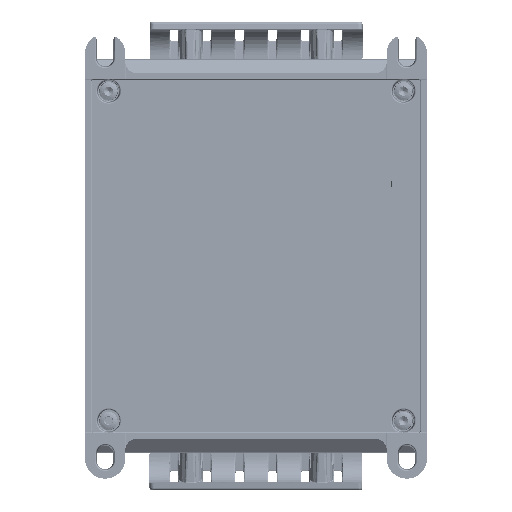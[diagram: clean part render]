
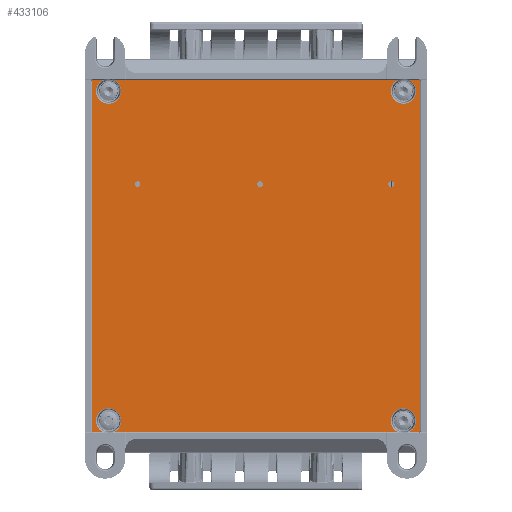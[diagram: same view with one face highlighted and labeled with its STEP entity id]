
A CAD part, front view. The second image highlights one B-rep face of the part: STEP entity #433106.
In plain terms, the highlighted planar face has unit normal (0, -1, 0).
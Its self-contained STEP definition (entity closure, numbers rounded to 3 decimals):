
#7895=FACE_BOUND('',#163698,.T.);
#7896=FACE_BOUND('',#163699,.T.);
#7897=FACE_BOUND('',#163700,.T.);
#43543=LINE('',#776575,#81649);
#43545=LINE('',#776587,#81651);
#43547=LINE('',#776599,#81653);
#44031=LINE('',#781580,#82137);
#44032=LINE('',#781583,#82138);
#44033=LINE('',#781685,#82139);
#44035=LINE('',#781697,#82141);
#44036=LINE('',#781704,#82142);
#81649=VECTOR('',#550649,10.);
#81651=VECTOR('',#550663,10.);
#81653=VECTOR('',#550677,10.);
#82137=VECTOR('',#552983,10.);
#82138=VECTOR('',#552986,10.);
#82139=VECTOR('',#552995,10.);
#82141=VECTOR('',#553009,10.);
#82142=VECTOR('',#553020,10.);
#99405=PLANE('',#464378);
#138253=FACE_OUTER_BOUND('',#163697,.T.);
#163697=EDGE_LOOP('',(#379866,#379867,#379868,#379869,#379870,#379871,#379872,
#379873,#379874,#379875,#379876,#379877,#379878,#379879,#379880,#379881,
#379882,#379883));
#163698=EDGE_LOOP('',(#379884));
#163699=EDGE_LOOP('',(#379885));
#163700=EDGE_LOOP('',(#379886));
#177975=CIRCLE('',#463436,0.66);
#177979=CIRCLE('',#463442,0.66);
#177982=CIRCLE('',#463447,5.386);
#177986=CIRCLE('',#463452,5.386);
#177990=CIRCLE('',#463456,5.386);
#178408=CIRCLE('',#464364,0.66);
#178412=CIRCLE('',#464370,0.66);
#178413=CIRCLE('',#464376,5.386);
#178415=CIRCLE('',#464379,5.386);
#178416=CIRCLE('',#464380,5.386);
#178417=CIRCLE('',#464381,1.25);
#178418=CIRCLE('',#464382,1.25);
#178419=CIRCLE('',#464383,1.25);
#217758=VERTEX_POINT('',#776530);
#217761=VERTEX_POINT('',#776551);
#217762=VERTEX_POINT('',#776571);
#217764=VERTEX_POINT('',#776577);
#217766=VERTEX_POINT('',#776583);
#217768=VERTEX_POINT('',#776589);
#217770=VERTEX_POINT('',#776595);
#217772=VERTEX_POINT('',#776685);
#217777=VERTEX_POINT('',#776735);
#218430=VERTEX_POINT('',#781561);
#218431=VERTEX_POINT('',#781563);
#218432=VERTEX_POINT('',#781582);
#218433=VERTEX_POINT('',#781660);
#218435=VERTEX_POINT('',#781683);
#218436=VERTEX_POINT('',#781687);
#218438=VERTEX_POINT('',#781693);
#218440=VERTEX_POINT('',#781699);
#218441=VERTEX_POINT('',#781714);
#218442=VERTEX_POINT('',#781717);
#218443=VERTEX_POINT('',#781719);
#218444=VERTEX_POINT('',#781721);
#272437=EDGE_CURVE('',#217758,#217762,#43543,.T.);
#272440=EDGE_CURVE('',#217762,#217764,#177975,.T.);
#272443=EDGE_CURVE('',#217764,#217766,#43545,.T.);
#272446=EDGE_CURVE('',#217766,#217768,#177979,.T.);
#272449=EDGE_CURVE('',#217768,#217770,#43547,.T.);
#272454=EDGE_CURVE('',#217770,#217772,#177982,.T.);
#272458=EDGE_CURVE('',#217761,#217777,#177986,.T.);
#272462=EDGE_CURVE('',#217777,#217758,#177990,.T.);
#273577=EDGE_CURVE('',#218430,#217761,#44031,.T.);
#273578=EDGE_CURVE('',#217772,#218432,#44032,.T.);
#273584=EDGE_CURVE('',#218433,#218435,#44033,.T.);
#273587=EDGE_CURVE('',#218435,#218436,#178408,.T.);
#273590=EDGE_CURVE('',#218436,#218438,#44035,.T.);
#273593=EDGE_CURVE('',#218438,#218440,#178412,.T.);
#273594=EDGE_CURVE('',#218440,#218431,#44036,.T.);
#273597=EDGE_CURVE('',#218432,#218433,#178413,.T.);
#273599=EDGE_CURVE('',#218441,#218430,#178415,.T.);
#273600=EDGE_CURVE('',#218431,#218441,#178416,.T.);
#273601=EDGE_CURVE('',#218442,#218442,#178417,.T.);
#273602=EDGE_CURVE('',#218443,#218443,#178418,.T.);
#273603=EDGE_CURVE('',#218444,#218444,#178419,.T.);
#379866=ORIENTED_EDGE('',*,*,#273577,.F.);
#379867=ORIENTED_EDGE('',*,*,#273599,.F.);
#379868=ORIENTED_EDGE('',*,*,#273600,.F.);
#379869=ORIENTED_EDGE('',*,*,#273594,.F.);
#379870=ORIENTED_EDGE('',*,*,#273593,.F.);
#379871=ORIENTED_EDGE('',*,*,#273590,.F.);
#379872=ORIENTED_EDGE('',*,*,#273587,.F.);
#379873=ORIENTED_EDGE('',*,*,#273584,.F.);
#379874=ORIENTED_EDGE('',*,*,#273597,.F.);
#379875=ORIENTED_EDGE('',*,*,#273578,.F.);
#379876=ORIENTED_EDGE('',*,*,#272454,.F.);
#379877=ORIENTED_EDGE('',*,*,#272449,.F.);
#379878=ORIENTED_EDGE('',*,*,#272446,.F.);
#379879=ORIENTED_EDGE('',*,*,#272443,.F.);
#379880=ORIENTED_EDGE('',*,*,#272440,.F.);
#379881=ORIENTED_EDGE('',*,*,#272437,.F.);
#379882=ORIENTED_EDGE('',*,*,#272462,.F.);
#379883=ORIENTED_EDGE('',*,*,#272458,.F.);
#379884=ORIENTED_EDGE('',*,*,#273601,.T.);
#379885=ORIENTED_EDGE('',*,*,#273602,.T.);
#379886=ORIENTED_EDGE('',*,*,#273603,.T.);
#433106=ADVANCED_FACE('',(#138253,#7895,#7896,#7897),#99405,.F.);
#463436=AXIS2_PLACEMENT_3D('',#776581,#550656,#550657);
#463442=AXIS2_PLACEMENT_3D('',#776593,#550670,#550671);
#463447=AXIS2_PLACEMENT_3D('',#776728,#550682,#550683);
#463452=AXIS2_PLACEMENT_3D('',#776736,#550692,#550693);
#463456=AXIS2_PLACEMENT_3D('',#776742,#550700,#550701);
#464364=AXIS2_PLACEMENT_3D('',#781691,#553002,#553003);
#464370=AXIS2_PLACEMENT_3D('',#781702,#553016,#553017);
#464376=AXIS2_PLACEMENT_3D('',#781711,#553031,#553032);
#464378=AXIS2_PLACEMENT_3D('',#781713,#553035,#553036);
#464379=AXIS2_PLACEMENT_3D('',#781715,#553037,#553038);
#464380=AXIS2_PLACEMENT_3D('',#781716,#553039,#553040);
#464381=AXIS2_PLACEMENT_3D('',#781718,#553041,#553042);
#464382=AXIS2_PLACEMENT_3D('',#781720,#553043,#553044);
#464383=AXIS2_PLACEMENT_3D('',#781722,#553045,#553046);
#550649=DIRECTION('',(1.,0.,0.));
#550656=DIRECTION('center_axis',(0.,1.,0.));
#550657=DIRECTION('ref_axis',(0.707,0.,0.707));
#550663=DIRECTION('',(0.,0.,-1.));
#550670=DIRECTION('center_axis',(0.,1.,0.));
#550671=DIRECTION('ref_axis',(0.707,0.,-0.707));
#550677=DIRECTION('',(-1.,0.,0.));
#550682=DIRECTION('center_axis',(0.,-1.,0.));
#550683=DIRECTION('ref_axis',(-1.,0.,0.));
#550692=DIRECTION('center_axis',(0.,-1.,0.));
#550693=DIRECTION('ref_axis',(-1.,0.,0.));
#550700=DIRECTION('center_axis',(0.,-1.,0.));
#550701=DIRECTION('ref_axis',(-1.,0.,0.));
#552983=DIRECTION('',(1.,0.,0.));
#552986=DIRECTION('',(-1.,0.,0.));
#552995=DIRECTION('',(-1.,0.,0.));
#553002=DIRECTION('center_axis',(0.,1.,0.));
#553003=DIRECTION('ref_axis',(-0.707,0.,-0.707));
#553009=DIRECTION('',(0.,0.,1.));
#553016=DIRECTION('center_axis',(0.,1.,0.));
#553017=DIRECTION('ref_axis',(-0.707,0.,0.707));
#553020=DIRECTION('',(1.,0.,0.));
#553031=DIRECTION('center_axis',(0.,-1.,0.));
#553032=DIRECTION('ref_axis',(-1.,0.,0.));
#553035=DIRECTION('center_axis',(0.,1.,0.));
#553036=DIRECTION('ref_axis',(0.,0.,1.));
#553037=DIRECTION('center_axis',(0.,-1.,0.));
#553038=DIRECTION('ref_axis',(-1.,0.,0.));
#553039=DIRECTION('center_axis',(0.,-1.,0.));
#553040=DIRECTION('ref_axis',(-1.,0.,0.));
#553041=DIRECTION('center_axis',(0.,1.,0.));
#553042=DIRECTION('ref_axis',(-1.,0.,0.));
#553043=DIRECTION('center_axis',(0.,1.,0.));
#553044=DIRECTION('ref_axis',(-1.,0.,0.));
#553045=DIRECTION('center_axis',(0.,1.,0.));
#553046=DIRECTION('ref_axis',(-1.,0.,0.));
#776530=CARTESIAN_POINT('',(23.47,1.,75.16));
#776551=CARTESIAN_POINT('',(18.43,1.,75.16));
#776571=CARTESIAN_POINT('',(27.45,1.,75.16));
#776575=CARTESIAN_POINT('',(-33.775,1.,75.16));
#776577=CARTESIAN_POINT('',(28.11,1.,74.5));
#776581=CARTESIAN_POINT('Origin',(27.45,1.,74.5));
#776583=CARTESIAN_POINT('',(28.11,1.,-74.5));
#776587=CARTESIAN_POINT('',(28.11,1.,-43.25));
#776589=CARTESIAN_POINT('',(27.45,1.,-75.16));
#776593=CARTESIAN_POINT('Origin',(27.45,1.,-74.5));
#776595=CARTESIAN_POINT('',(23.47,1.,-75.16));
#776599=CARTESIAN_POINT('',(-134.225,1.,-75.16));
#776685=CARTESIAN_POINT('',(18.43,1.,-75.16));
#776728=CARTESIAN_POINT('Origin',(20.95,1.,-70.4));
#776735=CARTESIAN_POINT('',(20.95,1.,65.014));
#776736=CARTESIAN_POINT('Origin',(20.95,1.,70.4));
#776742=CARTESIAN_POINT('Origin',(20.95,1.,70.4));
#781561=CARTESIAN_POINT('',(-102.43,1.,75.16));
#781563=CARTESIAN_POINT('',(-107.47,1.,75.16));
#781580=CARTESIAN_POINT('',(50.225,1.,75.16));
#781582=CARTESIAN_POINT('',(-102.43,1.,-75.16));
#781583=CARTESIAN_POINT('',(-50.225,1.,-75.16));
#781660=CARTESIAN_POINT('',(-107.47,1.,-75.16));
#781683=CARTESIAN_POINT('',(-111.45,1.,-75.16));
#781685=CARTESIAN_POINT('',(-50.225,1.,-75.16));
#781687=CARTESIAN_POINT('',(-112.11,1.,-74.5));
#781691=CARTESIAN_POINT('Origin',(-111.45,1.,-74.5));
#781693=CARTESIAN_POINT('',(-112.11,1.,74.5));
#781697=CARTESIAN_POINT('',(-112.11,1.,43.25));
#781699=CARTESIAN_POINT('',(-111.45,1.,75.16));
#781702=CARTESIAN_POINT('Origin',(-111.45,1.,74.5));
#781704=CARTESIAN_POINT('',(50.225,1.,75.16));
#781711=CARTESIAN_POINT('Origin',(-104.95,1.,-70.4));
#781713=CARTESIAN_POINT('Origin',(0.,1.,0.));
#781714=CARTESIAN_POINT('',(-104.95,1.,65.014));
#781715=CARTESIAN_POINT('Origin',(-104.95,1.,70.4));
#781716=CARTESIAN_POINT('Origin',(-104.95,1.,70.4));
#781717=CARTESIAN_POINT('',(17.025,1.,30.65));
#781718=CARTESIAN_POINT('Origin',(15.775,1.,30.65));
#781719=CARTESIAN_POINT('',(-91.335,1.,30.65));
#781720=CARTESIAN_POINT('Origin',(-92.585,1.,30.65));
#781721=CARTESIAN_POINT('',(-38.975,1.,30.65));
#781722=CARTESIAN_POINT('Origin',(-40.225,1.,30.65));
